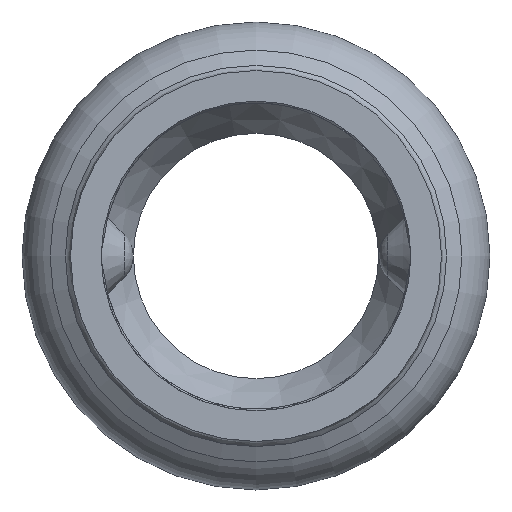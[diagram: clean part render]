
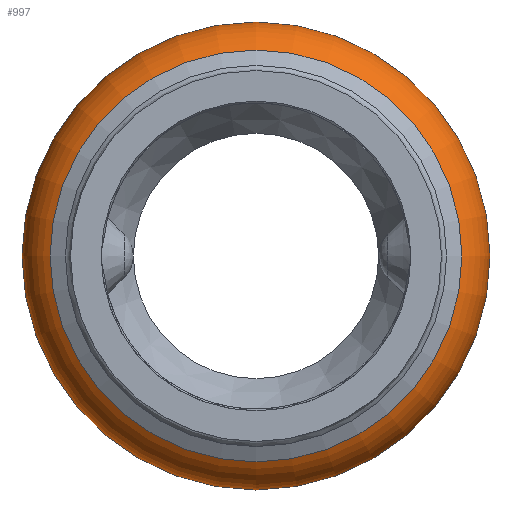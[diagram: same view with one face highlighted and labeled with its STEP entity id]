
A CAD part, left-side view. The second image highlights one B-rep face of the part: STEP entity #997.
In plain terms, the highlighted toroidal (fillet/blend) face has major radius 8.7 mm and minor radius 2.75 mm.
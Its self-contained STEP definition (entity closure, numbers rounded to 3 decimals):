
#827=CARTESIAN_POINT('',(-20.852,9.44,0.0));
#828=VERTEX_POINT('',#827);
#829=CARTESIAN_POINT('',(-20.852,0.,0.0));
#830=DIRECTION('',(1.0,0.0,0.0));
#831=DIRECTION('',(0.0,-1.0,0.0));
#832=AXIS2_PLACEMENT_3D('',#829,#830,#831);
#833=CIRCLE('',#832,9.44);
#834=EDGE_CURVE('',#828,#828,#833,.T.);
#971=CARTESIAN_POINT('',(-25.882,10.075,0.0));
#972=VERTEX_POINT('',#971);
#973=CARTESIAN_POINT('',(-25.882,0.,0.0));
#974=DIRECTION('',(1.0,0.0,0.0));
#975=DIRECTION('',(0.0,1.0,0.0));
#976=AXIS2_PLACEMENT_3D('',#973,#974,#975);
#977=CIRCLE('',#976,10.075);
#978=EDGE_CURVE('',#972,#972,#977,.T.);
#986=CARTESIAN_POINT('',(-23.5,0.,0.0));
#987=DIRECTION('',(1.0,0.,0.0));
#988=DIRECTION('',(0.0,0.0,-1.0));
#989=AXIS2_PLACEMENT_3D('',#986,#987,#988);
#990=TOROIDAL_SURFACE('',#989,8.7,2.75);
#991=ORIENTED_EDGE('',*,*,#978,.T.);
#992=EDGE_LOOP('',(#991));
#993=FACE_OUTER_BOUND('',#992,.T.);
#994=ORIENTED_EDGE('',*,*,#834,.F.);
#995=EDGE_LOOP('',(#994));
#996=FACE_BOUND('',#995,.T.);
#997=ADVANCED_FACE('',(#993,#996),#990,.T.);
